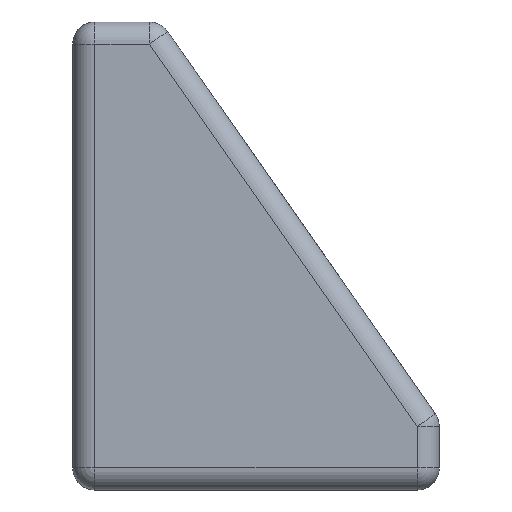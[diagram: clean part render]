
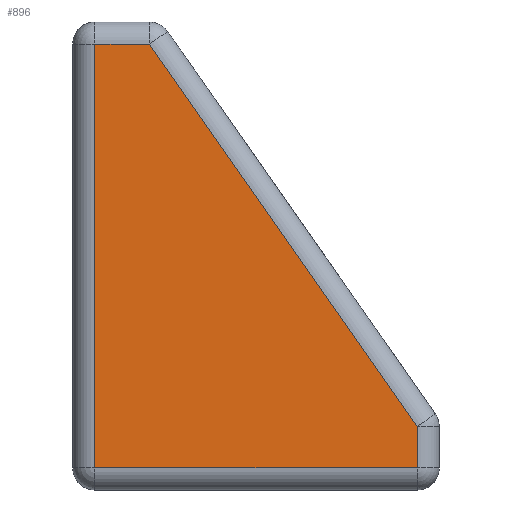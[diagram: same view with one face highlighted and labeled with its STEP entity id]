
A CAD part, left-side view. The second image highlights one B-rep face of the part: STEP entity #896.
In plain terms, the highlighted planar face has unit normal (-1, 0, 0).
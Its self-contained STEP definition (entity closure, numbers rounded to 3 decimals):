
#126 = CYLINDRICAL_SURFACE('',#127,5.);
#127 = AXIS2_PLACEMENT_3D('',#128,#129,#130);
#128 = CARTESIAN_POINT('',(5.,0.,5.));
#129 = DIRECTION('',(0.,1.,0.));
#130 = DIRECTION('',(-0.,0.,-1.));
#336 = VERTEX_POINT('',#337);
#337 = CARTESIAN_POINT('',(0.,5.,5.));
#357 = EDGE_CURVE('',#336,#358,#360,.T.);
#358 = VERTEX_POINT('',#359);
#359 = CARTESIAN_POINT('',(0.,78.093,5.));
#360 = SURFACE_CURVE('',#361,(#365,#372),.PCURVE_S1.);
#361 = LINE('',#362,#363);
#362 = CARTESIAN_POINT('',(0.,0.,5.));
#363 = VECTOR('',#364,1.);
#364 = DIRECTION('',(0.,1.,0.));
#365 = PCURVE('',#126,#366);
#366 = DEFINITIONAL_REPRESENTATION('',(#367),#371);
#367 = LINE('',#368,#369);
#368 = CARTESIAN_POINT('',(1.571,0.));
#369 = VECTOR('',#370,1.);
#370 = DIRECTION('',(0.,1.));
#371 = ( GEOMETRIC_REPRESENTATION_CONTEXT(2) 
PARAMETRIC_REPRESENTATION_CONTEXT() REPRESENTATION_CONTEXT('2D SPACE',''
  ) );
#372 = PCURVE('',#373,#378);
#373 = PLANE('',#374);
#374 = AXIS2_PLACEMENT_3D('',#375,#376,#377);
#375 = CARTESIAN_POINT('',(0.,51.316,43.542));
#376 = DIRECTION('',(1.,0.,0.));
#377 = DIRECTION('',(-0.,0.,1.));
#378 = DEFINITIONAL_REPRESENTATION('',(#379),#383);
#379 = LINE('',#380,#381);
#380 = CARTESIAN_POINT('',(-38.542,51.316));
#381 = VECTOR('',#382,1.);
#382 = DIRECTION('',(0.,-1.));
#383 = ( GEOMETRIC_REPRESENTATION_CONTEXT(2) 
PARAMETRIC_REPRESENTATION_CONTEXT() REPRESENTATION_CONTEXT('2D SPACE',''
  ) );
#779 = CYLINDRICAL_SURFACE('',#780,5.);
#780 = AXIS2_PLACEMENT_3D('',#781,#782,#783);
#781 = CARTESIAN_POINT('',(5.,5.,16.));
#782 = DIRECTION('',(0.,0.,-1.));
#783 = DIRECTION('',(0.,-1.,-0.));
#896 = ADVANCED_FACE('',(#897),#373,.F.);
#897 = FACE_BOUND('',#898,.F.);
#898 = EDGE_LOOP('',(#899,#900,#928,#956,#984));
#899 = ORIENTED_EDGE('',*,*,#357,.T.);
#900 = ORIENTED_EDGE('',*,*,#901,.T.);
#901 = EDGE_CURVE('',#358,#902,#904,.T.);
#902 = VERTEX_POINT('',#903);
#903 = CARTESIAN_POINT('',(0.,78.093,101.107));
#904 = SURFACE_CURVE('',#905,(#909,#916),.PCURVE_S1.);
#905 = LINE('',#906,#907);
#906 = CARTESIAN_POINT('',(0.,78.093,0.));
#907 = VECTOR('',#908,1.);
#908 = DIRECTION('',(0.,0.,1.));
#909 = PCURVE('',#373,#910);
#910 = DEFINITIONAL_REPRESENTATION('',(#911),#915);
#911 = LINE('',#912,#913);
#912 = CARTESIAN_POINT('',(-43.542,-26.778));
#913 = VECTOR('',#914,1.);
#914 = DIRECTION('',(1.,0.));
#915 = ( GEOMETRIC_REPRESENTATION_CONTEXT(2) 
PARAMETRIC_REPRESENTATION_CONTEXT() REPRESENTATION_CONTEXT('2D SPACE',''
  ) );
#916 = PCURVE('',#917,#922);
#917 = CYLINDRICAL_SURFACE('',#918,5.);
#918 = AXIS2_PLACEMENT_3D('',#919,#920,#921);
#919 = CARTESIAN_POINT('',(5.,78.093,0.));
#920 = DIRECTION('',(0.,0.,1.));
#921 = DIRECTION('',(-0.,1.,0.));
#922 = DEFINITIONAL_REPRESENTATION('',(#923),#927);
#923 = LINE('',#924,#925);
#924 = CARTESIAN_POINT('',(1.571,0.));
#925 = VECTOR('',#926,1.);
#926 = DIRECTION('',(0.,1.));
#927 = ( GEOMETRIC_REPRESENTATION_CONTEXT(2) 
PARAMETRIC_REPRESENTATION_CONTEXT() REPRESENTATION_CONTEXT('2D SPACE',''
  ) );
#928 = ORIENTED_EDGE('',*,*,#929,.T.);
#929 = EDGE_CURVE('',#902,#930,#932,.T.);
#930 = VERTEX_POINT('',#931);
#931 = CARTESIAN_POINT('',(0.,65.696,101.107));
#932 = SURFACE_CURVE('',#933,(#937,#944),.PCURVE_S1.);
#933 = LINE('',#934,#935);
#934 = CARTESIAN_POINT('',(0.,83.093,
    101.107));
#935 = VECTOR('',#936,1.);
#936 = DIRECTION('',(0.,-1.,0.));
#937 = PCURVE('',#373,#938);
#938 = DEFINITIONAL_REPRESENTATION('',(#939),#943);
#939 = LINE('',#940,#941);
#940 = CARTESIAN_POINT('',(57.565,-31.778));
#941 = VECTOR('',#942,1.);
#942 = DIRECTION('',(0.,1.));
#943 = ( GEOMETRIC_REPRESENTATION_CONTEXT(2) 
PARAMETRIC_REPRESENTATION_CONTEXT() REPRESENTATION_CONTEXT('2D SPACE',''
  ) );
#944 = PCURVE('',#945,#950);
#945 = CYLINDRICAL_SURFACE('',#946,5.);
#946 = AXIS2_PLACEMENT_3D('',#947,#948,#949);
#947 = CARTESIAN_POINT('',(5.,83.093,101.107));
#948 = DIRECTION('',(0.,-1.,0.));
#949 = DIRECTION('',(-0.,0.,1.));
#950 = DEFINITIONAL_REPRESENTATION('',(#951),#955);
#951 = LINE('',#952,#953);
#952 = CARTESIAN_POINT('',(1.571,0.));
#953 = VECTOR('',#954,1.);
#954 = DIRECTION('',(0.,1.));
#955 = ( GEOMETRIC_REPRESENTATION_CONTEXT(2) 
PARAMETRIC_REPRESENTATION_CONTEXT() REPRESENTATION_CONTEXT('2D SPACE',''
  ) );
#956 = ORIENTED_EDGE('',*,*,#957,.T.);
#957 = EDGE_CURVE('',#930,#958,#960,.T.);
#958 = VERTEX_POINT('',#959);
#959 = CARTESIAN_POINT('',(0.,5.,14.424));
#960 = SURFACE_CURVE('',#961,(#965,#972),.PCURVE_S1.);
#961 = LINE('',#962,#963);
#962 = CARTESIAN_POINT('',(0.,67.189,
    103.239));
#963 = VECTOR('',#964,1.);
#964 = DIRECTION('',(0.,-0.574,-0.819));
#965 = PCURVE('',#373,#966);
#966 = DEFINITIONAL_REPRESENTATION('',(#967),#971);
#967 = LINE('',#968,#969);
#968 = CARTESIAN_POINT('',(59.697,-15.873));
#969 = VECTOR('',#970,1.);
#970 = DIRECTION('',(-0.819,0.574));
#971 = ( GEOMETRIC_REPRESENTATION_CONTEXT(2) 
PARAMETRIC_REPRESENTATION_CONTEXT() REPRESENTATION_CONTEXT('2D SPACE',''
  ) );
#972 = PCURVE('',#973,#978);
#973 = CYLINDRICAL_SURFACE('',#974,5.);
#974 = AXIS2_PLACEMENT_3D('',#975,#976,#977);
#975 = CARTESIAN_POINT('',(5.,67.189,103.239));
#976 = DIRECTION('',(0.,-0.574,-0.819));
#977 = DIRECTION('',(0.,-0.819,0.574));
#978 = DEFINITIONAL_REPRESENTATION('',(#979),#983);
#979 = LINE('',#980,#981);
#980 = CARTESIAN_POINT('',(1.571,0.));
#981 = VECTOR('',#982,1.);
#982 = DIRECTION('',(0.,1.));
#983 = ( GEOMETRIC_REPRESENTATION_CONTEXT(2) 
PARAMETRIC_REPRESENTATION_CONTEXT() REPRESENTATION_CONTEXT('2D SPACE',''
  ) );
#984 = ORIENTED_EDGE('',*,*,#985,.T.);
#985 = EDGE_CURVE('',#958,#336,#986,.T.);
#986 = SURFACE_CURVE('',#987,(#991,#998),.PCURVE_S1.);
#987 = LINE('',#988,#989);
#988 = CARTESIAN_POINT('',(0.,5.,16.));
#989 = VECTOR('',#990,1.);
#990 = DIRECTION('',(0.,0.,-1.));
#991 = PCURVE('',#373,#992);
#992 = DEFINITIONAL_REPRESENTATION('',(#993),#997);
#993 = LINE('',#994,#995);
#994 = CARTESIAN_POINT('',(-27.542,46.316));
#995 = VECTOR('',#996,1.);
#996 = DIRECTION('',(-1.,0.));
#997 = ( GEOMETRIC_REPRESENTATION_CONTEXT(2) 
PARAMETRIC_REPRESENTATION_CONTEXT() REPRESENTATION_CONTEXT('2D SPACE',''
  ) );
#998 = PCURVE('',#779,#999);
#999 = DEFINITIONAL_REPRESENTATION('',(#1000),#1004);
#1000 = LINE('',#1001,#1002);
#1001 = CARTESIAN_POINT('',(1.571,0.));
#1002 = VECTOR('',#1003,1.);
#1003 = DIRECTION('',(0.,1.));
#1004 = ( GEOMETRIC_REPRESENTATION_CONTEXT(2) 
PARAMETRIC_REPRESENTATION_CONTEXT() REPRESENTATION_CONTEXT('2D SPACE',''
  ) );
